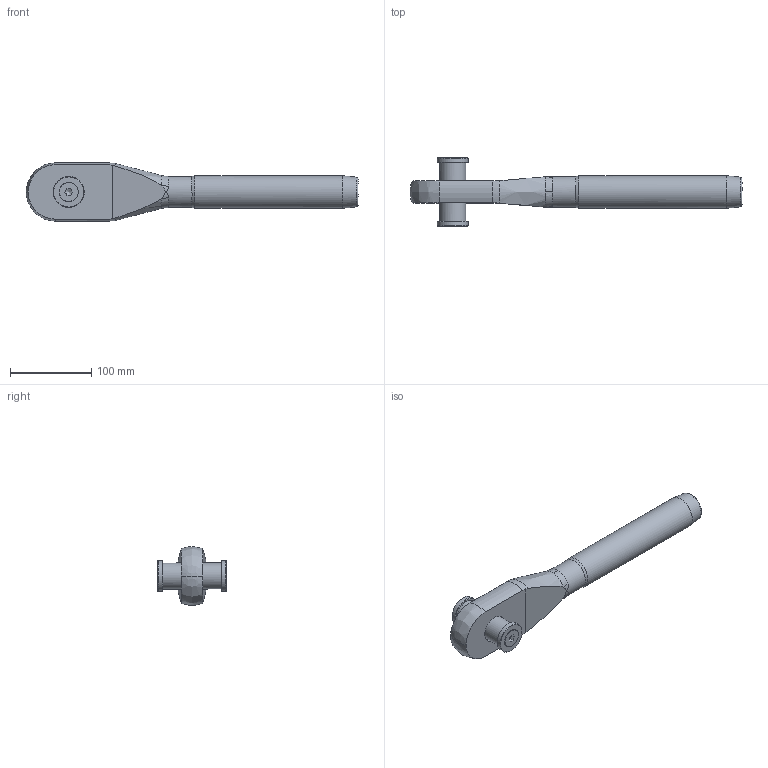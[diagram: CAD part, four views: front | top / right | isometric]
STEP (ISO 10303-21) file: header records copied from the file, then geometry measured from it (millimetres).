
FILE_DESCRIPTION(/* description */ (''),/* implementation_level */ '2;1');
FILE_NAME(/* name */ 'MCC 22_1,4418',/* time_stamp */ '2023-05-23T15:40:34+02:00',/* author */ (''),/* organization */ (''),/* preprocessor_version */ 'ST-DEVELOPER v16.5',/* originating_system */ 'Rhino 7.22',/* authorisation */ '');
FILE_SCHEMA (('CONFIG_CONTROL_DESIGN'));
Length unit declared in the file: millimetre
Products named in the file (1): Document
Bounding box: 408 x 85.7 x 71.91 mm (x, y, z)
Volume: 629407 mm3; surface area: 80708.5 mm2
Topology: 6 solids, 6 shells, 74 faces, 203 edges, 135 vertices
Faces by surface type: bspline 31, plane 27, cylinder 16
Full cylindrical faces by diameter (mm): 10.106 x2, 12 x2, 12.5 x2, 23.12 x2, 32 x1, 34 x1, 38 x2, 38.1 x1, 40 x1
Entity records: 3245 total; most frequent: CARTESIAN_POINT 1990, ORIENTED_EDGE 386, EDGE_CURVE 193, VERTEX_POINT 135, EDGE_LOOP 84, ADVANCED_FACE 74, FACE_OUTER_BOUND 74, B_SPLINE_CURVE_WITH_KNOTS 64
